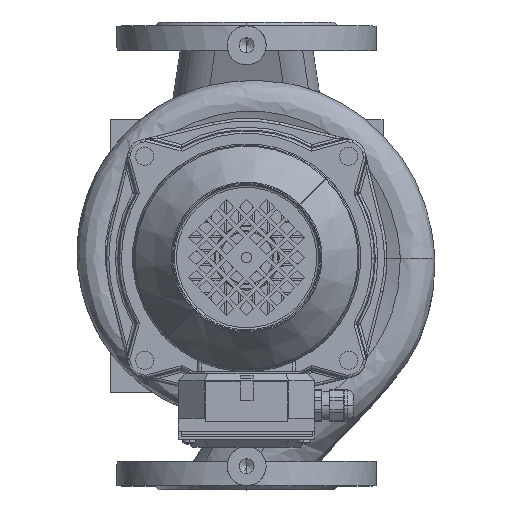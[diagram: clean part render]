
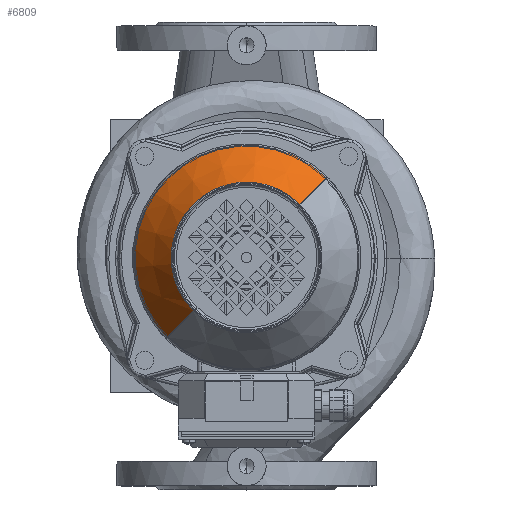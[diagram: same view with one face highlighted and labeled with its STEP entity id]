
A CAD part, top view. The second image highlights one B-rep face of the part: STEP entity #6809.
In plain terms, the highlighted conical face has half-angle 37 degrees and reference radius 58.108 mm.
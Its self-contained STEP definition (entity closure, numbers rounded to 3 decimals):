
#6809=ADVANCED_FACE('NONE',(#16193),#16194,.T.);
#16193=FACE_OUTER_BOUND('',#32871,.T.);
#16194=CONICAL_SURFACE('',#32872,58.108,0.646);
#32871=EDGE_LOOP('',(#50126,#50127,#50128,#50129));
#32872=AXIS2_PLACEMENT_3D('',#50130,#50131,#50132);
#50126=ORIENTED_EDGE('',*,*,#58443,.F.);
#50127=ORIENTED_EDGE('',*,*,#58441,.F.);
#50128=ORIENTED_EDGE('',*,*,#58444,.F.);
#50129=ORIENTED_EDGE('',*,*,#58445,.T.);
#50130=CARTESIAN_POINT('',(0.0,96.403,0.0));
#50131=DIRECTION('',(-0.0,-1.0,-0.0));
#50132=DIRECTION('',(0.0,0.0,-1.0));
#58441=EDGE_CURVE('NONE',#71483,#71485,#71486,.T.);
#58443=EDGE_CURVE('',#71485,#71488,#71489,.T.);
#58444=EDGE_CURVE('',#71490,#71483,#71491,.T.);
#58445=EDGE_CURVE('NONE',#71490,#71488,#71492,.T.);
#71483=VERTEX_POINT('',#94766);
#71485=VERTEX_POINT('NONE',#94768);
#71486=CIRCLE('',#94769,58.108);
#71488=VERTEX_POINT('NONE',#94771);
#71489=LINE('',#94772,#94773);
#71490=VERTEX_POINT('',#94774);
#71491=LINE('',#94775,#94776);
#71492=CIRCLE('',#94777,86.592);
#94766=CARTESIAN_POINT('',(0.,96.403,58.108));
#94768=CARTESIAN_POINT('',(0.,96.403,-58.108));
#94769=AXIS2_PLACEMENT_3D('',#105271,#105272,#105273);
#94771=CARTESIAN_POINT('',(0.0,58.603,-86.592));
#94772=CARTESIAN_POINT('',(0.,96.403,-58.108));
#94773=VECTOR('',#105277,1.0);
#94774=CARTESIAN_POINT('',(0.,58.603,86.592));
#94775=CARTESIAN_POINT('',(0.,96.403,58.108));
#94776=VECTOR('',#105278,1.0);
#94777=AXIS2_PLACEMENT_3D('',#105279,#105280,#105281);
#105271=CARTESIAN_POINT('',(0.0,96.403,0.0));
#105272=DIRECTION('',(-0.0,1.0,0.0));
#105273=DIRECTION('',(0.0,0.0,1.0));
#105277=DIRECTION('',(0.,-0.799,-0.602));
#105278=DIRECTION('',(0.,0.799,-0.602));
#105279=CARTESIAN_POINT('',(0.0,58.603,0.0));
#105280=DIRECTION('',(-0.0,1.0,0.0));
#105281=DIRECTION('',(0.0,0.0,1.0));
